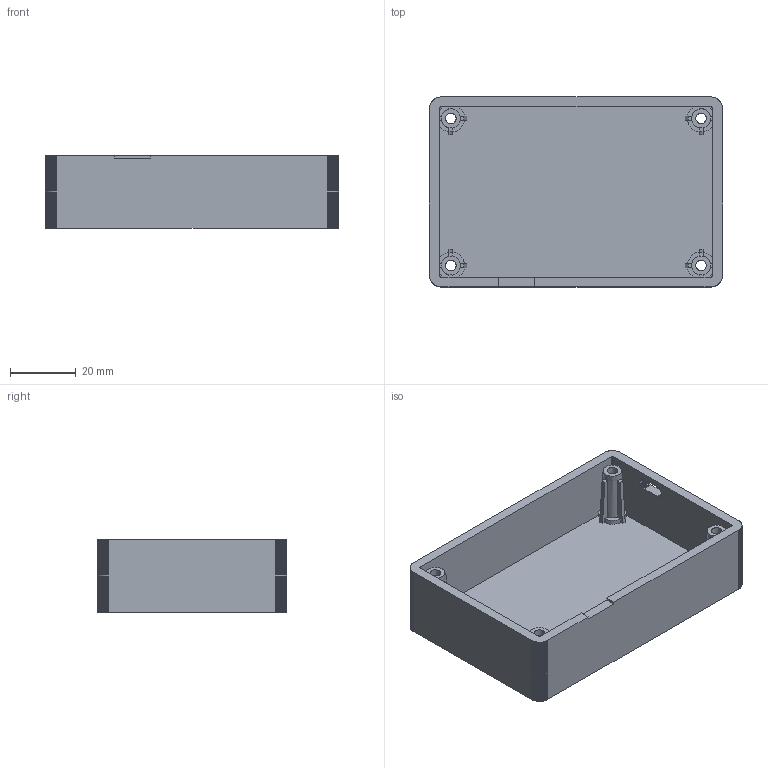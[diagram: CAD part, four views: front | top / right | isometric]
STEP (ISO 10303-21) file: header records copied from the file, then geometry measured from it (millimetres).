
FILE_DESCRIPTION(('Designed by EasyEDA Pro'),'2;1');
FILE_NAME('Open CASCADE Shape Model','2025-12-08T20:20:33',('Author'),( 'Open CASCADE'),'Open CASCADE STEP processor 7.8','Open CASCADE 7.8' ,'Unknown');
FILE_SCHEMA(('AUTOMOTIVE_DESIGN { 1 0 10303 214 1 1 1 1 }'));
Length unit declared in the file: millimetre
Products named in the file (1): Open CASCADE STEP translator 7.8 5
Bounding box: 89 x 57.68 x 22 mm (x, y, z)
Volume: 32400.1 mm3; surface area: 23894.8 mm2
Topology: 1 solids, 1 shells, 404 faces, 1194 edges, 796 vertices
Faces by surface type: bspline 404
Entity records: 25940 total; most frequent: CARTESIAN_POINT 10553, B_SPLINE_CURVE_WITH_KNOTS 3406, ORIENTED_EDGE 2388, PCURVE 2388, DEFINITIONAL_REPRESENTATION 2388, EDGE_CURVE 1194, SURFACE_CURVE 1182, VERTEX_POINT 796
